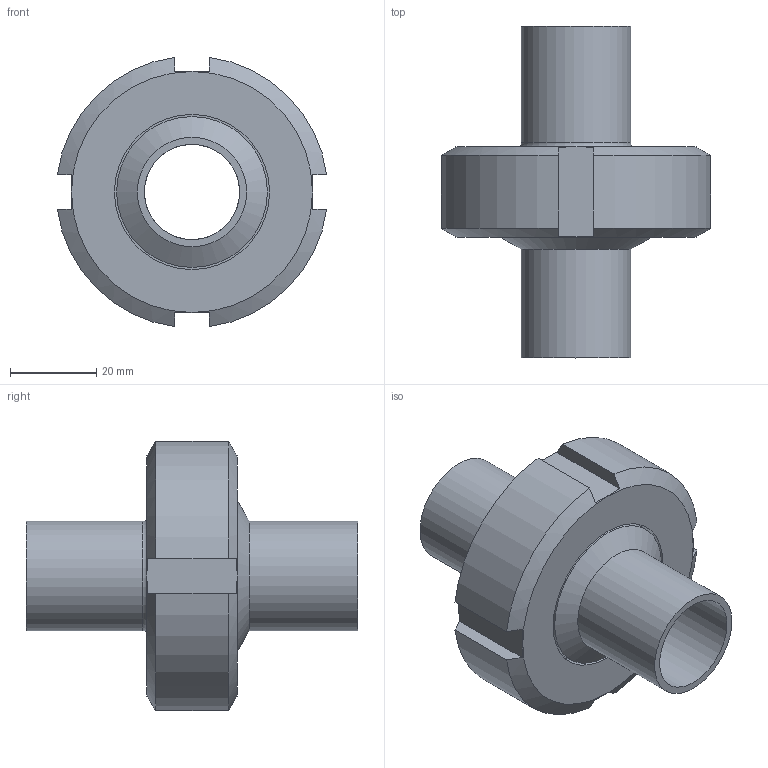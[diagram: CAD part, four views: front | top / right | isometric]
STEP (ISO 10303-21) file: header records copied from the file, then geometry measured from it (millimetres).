
FILE_DESCRIPTION(/* description */ ('Aseptik_Rohrverbindung_DIN 11864-1-A_25,4x1,65_L77'),/* implementation_level */ '2;1');
FILE_NAME(/* name */ 'L:\Normteile\N0024 - Rohrverbindungen\N0024_002 - DIN11864\N0024_002_001 - geschraubt\N0024_002_001\Step Marketing\DIN11864-1-A_25,4x1,65_L77.stp',/* time_stamp */ '2021-08-31T10:28:30+02:00',/* author */ ('Csasse'),/* organization */ ('Dockweiler AG'),/* preprocessor_version */ 'ST-DEVELOPER v18',/* originating_system */ 'Autodesk Inventor 2020',/* authorisation */ '');
FILE_SCHEMA (('AUTOMOTIVE_DESIGN { 1 0 10303 214 3 1 1 }'));
Length unit declared in the file: millimetre
Products named in the file (5): N0024_002_001_51; N0003_007_001_23; N0003_007_002_23; N0005_005_002_001_24; N0009_009_14
Assembly tree (4 placements, depth 2):
  N0024_002_001_51
    N0003_007_001_23
    N0003_007_002_23
    N0005_005_002_001_24
    N0009_009_14
Bounding box: 62.49 x 77 x 62.49 mm (x, y, z)
Volume: 63095.7 mm3; surface area: 31521 mm2
Topology: 4 solids, 4 shells, 60 faces, 176 edges, 128 vertices
Faces by surface type: plane 24, cylinder 14, torus 12, cone 10
Full cylindrical faces by diameter (mm): 22.1 x2, 25.4 x2, 35 x1, 36 x1, 42.9 x1, 43 x1, 47.767 x1, 52.423 x1
Entity records: 2344 total; most frequent: CARTESIAN_POINT 425, DIRECTION 402, ORIENTED_EDGE 352, AXIS2_PLACEMENT_3D 183, EDGE_CURVE 176, VERTEX_POINT 128, CIRCLE 114, EDGE_LOOP 72
